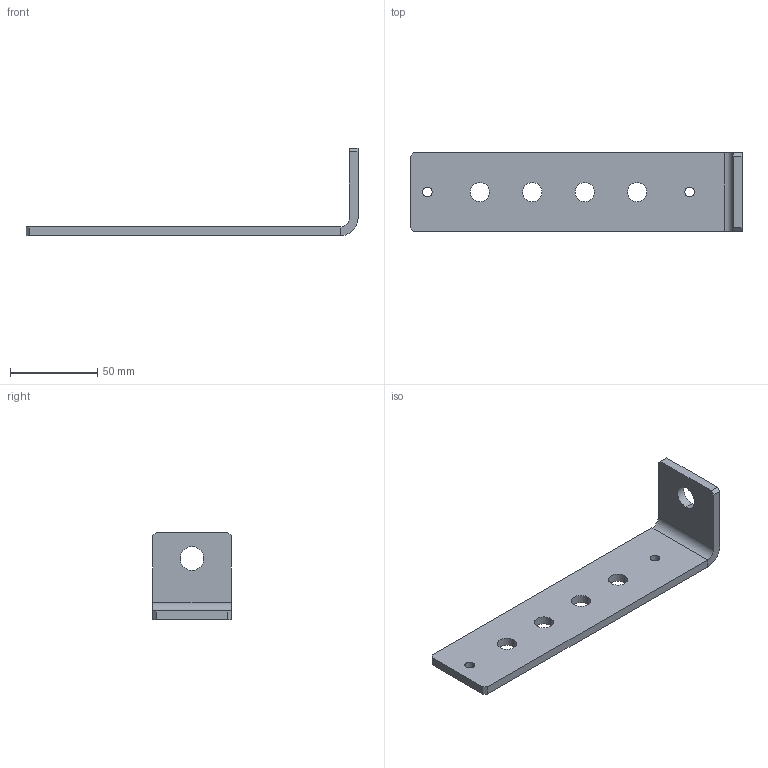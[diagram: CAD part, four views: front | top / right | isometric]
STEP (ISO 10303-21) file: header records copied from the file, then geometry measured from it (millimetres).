
FILE_DESCRIPTION(('CAx-IF Rec.Pracs.---Model Styling and Organization---1.2---2011-12-15','CAx-IF Rec.Pracs.---Geometric and Assembly Validation Properties---4.1---2014-06-16','CAx-IF Rec.Pracs.---PMI Polyline Presentation---2.0---2013-05-24'),'2;1');
FILE_NAME('R5M2WBBEPC6.stp','2021-05-05T11:54:22+03:00',(''),(''),'STEP Interface 4.4 by CT CoreTechnologie','3D_Evolution4.4 by CT CoreTechnologie','');
FILE_SCHEMA(('AUTOMOTIVE_DESIGN { 1 0 10303 214 1 1 1 1 }'));
Length unit declared in the file: millimetre
Products named in the file (2): R5M2WBBEPC6; RB.1770.00.00.0_-01
Assembly tree (1 placements, depth 2):
  R5M2WBBEPC6
    RB.1770.00.00.0_-01
Bounding box: 190 x 45 x 50 mm (x, y, z)
Surface area: 23523.1 mm2 (no closed solid volume)
Topology: 0 solids, 1 shells, 31 faces, 81 edges, 52 vertices
Faces by surface type: cylinder 16, plane 15
Entity records: 1060 total; most frequent: DIRECTION 179, CARTESIAN_POINT 166, ORIENTED_EDGE 162, EDGE_CURVE 81, AXIS2_PLACEMENT_3D 65, VERTEX_POINT 52, VECTOR 49, LINE 49
